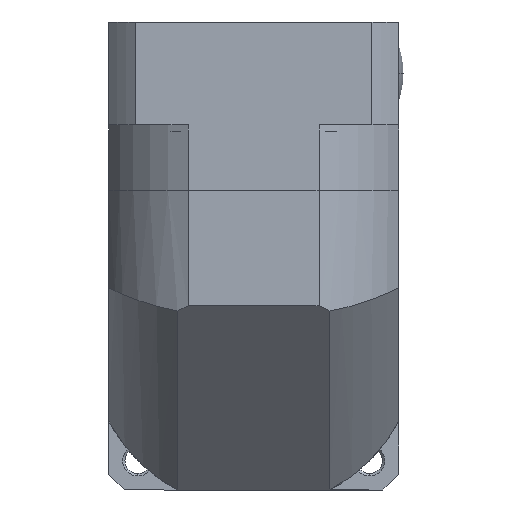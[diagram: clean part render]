
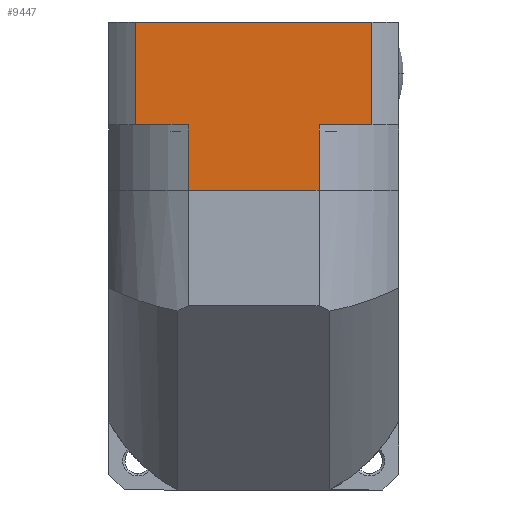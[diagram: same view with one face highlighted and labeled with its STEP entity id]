
A CAD part, front view. The second image highlights one B-rep face of the part: STEP entity #9447.
In plain terms, the highlighted planar face has unit normal (0, -1, 0).
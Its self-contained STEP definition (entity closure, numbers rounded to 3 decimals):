
#75 = CARTESIAN_POINT ( 'NONE',  ( 34.192, -30.594, 80.993 ) ) ;
#390 = LINE ( 'NONE', #7635, #2299 ) ;
#411 = ORIENTED_EDGE ( 'NONE', *, *, #11024, .F. ) ;
#428 = VECTOR ( 'NONE', #5160, 1000. ) ;
#904 = LINE ( 'NONE', #75, #428 ) ;
#1368 = CARTESIAN_POINT ( 'NONE',  ( -16.365, -30.594, 80.993 ) ) ;
#1486 = PLANE ( 'NONE',  #2912 ) ;
#1507 = CARTESIAN_POINT ( 'NONE',  ( -5.051, -30.594, 44.993 ) ) ;
#1837 = VECTOR ( 'NONE', #11076, 1000. ) ;
#2127 = LINE ( 'NONE', #6307, #10386 ) ;
#2299 = VECTOR ( 'NONE', #3519, 1000. ) ;
#2381 = VECTOR ( 'NONE', #8895, 1000. ) ;
#2719 = ORIENTED_EDGE ( 'NONE', *, *, #12917, .F. ) ;
#2748 = EDGE_LOOP ( 'NONE', ( #12069, #2719, #7131, #5301, #411, #4698, #13366, #6683 ) ) ;
#2836 = CARTESIAN_POINT ( 'NONE',  ( -16.365, -30.594, 80.993 ) ) ;
#2912 = AXIS2_PLACEMENT_3D ( 'NONE', #7628, #13137, #11045 ) ;
#2973 = VERTEX_POINT ( 'NONE', #2836 ) ;
#3122 = DIRECTION ( 'NONE',  ( 1., 0., 0. ) ) ;
#3194 = EDGE_CURVE ( 'NONE', #2973, #12304, #390, .T. ) ;
#3519 = DIRECTION ( 'NONE',  ( 0., 0., -1. ) ) ;
#3546 = VECTOR ( 'NONE', #3122, 1000. ) ;
#3586 = DIRECTION ( 'NONE',  ( 1., 0., 0. ) ) ;
#3672 = VERTEX_POINT ( 'NONE', #9069 ) ;
#3774 = VECTOR ( 'NONE', #4931, 1000. ) ;
#3889 = LINE ( 'NONE', #4733, #3774 ) ;
#4698 = ORIENTED_EDGE ( 'NONE', *, *, #3194, .T. ) ;
#4733 = CARTESIAN_POINT ( 'NONE',  ( 22.878, -30.594, 58.993 ) ) ;
#4931 = DIRECTION ( 'NONE',  ( 0., 0., -1. ) ) ;
#5160 = DIRECTION ( 'NONE',  ( 0., 0., -1. ) ) ;
#5301 = ORIENTED_EDGE ( 'NONE', *, *, #12654, .F. ) ;
#5471 = CARTESIAN_POINT ( 'NONE',  ( -16.365, -30.594, 58.993 ) ) ;
#5790 = EDGE_CURVE ( 'NONE', #3672, #7605, #7732, .T. ) ;
#6098 = VECTOR ( 'NONE', #10220, 1000. ) ;
#6307 = CARTESIAN_POINT ( 'NONE',  ( -16.365, -30.594, 58.993 ) ) ;
#6316 = EDGE_CURVE ( 'NONE', #7605, #8727, #8115, .T. ) ;
#6683 = ORIENTED_EDGE ( 'NONE', *, *, #5790, .T. ) ;
#6814 = CARTESIAN_POINT ( 'NONE',  ( -5.051, -30.594, 58.993 ) ) ;
#7101 = VERTEX_POINT ( 'NONE', #8341 ) ;
#7131 = ORIENTED_EDGE ( 'NONE', *, *, #12986, .T. ) ;
#7605 = VERTEX_POINT ( 'NONE', #11523 ) ;
#7628 = CARTESIAN_POINT ( 'NONE',  ( -5.051, -30.594, 58.993 ) ) ;
#7635 = CARTESIAN_POINT ( 'NONE',  ( -16.365, -30.594, 80.993 ) ) ;
#7732 = LINE ( 'NONE', #6814, #1837 ) ;
#8115 = LINE ( 'NONE', #1507, #6098 ) ;
#8341 = CARTESIAN_POINT ( 'NONE',  ( 34.192, -30.594, 58.993 ) ) ;
#8727 = VERTEX_POINT ( 'NONE', #11486 ) ;
#8803 = FACE_OUTER_BOUND ( 'NONE', #2748, .T. ) ;
#8895 = DIRECTION ( 'NONE',  ( 1., 0., 0. ) ) ;
#9069 = CARTESIAN_POINT ( 'NONE',  ( -5.051, -30.594, 58.993 ) ) ;
#9447 = ADVANCED_FACE ( 'NONE', ( #8803 ), #1486, .F. ) ;
#9525 = LINE ( 'NONE', #11700, #3546 ) ;
#10019 = LINE ( 'NONE', #1368, #2381 ) ;
#10220 = DIRECTION ( 'NONE',  ( 1., 0., 0. ) ) ;
#10386 = VECTOR ( 'NONE', #3586, 1000. ) ;
#10412 = EDGE_CURVE ( 'NONE', #12304, #3672, #2127, .T. ) ;
#10557 = VERTEX_POINT ( 'NONE', #13001 ) ;
#11024 = EDGE_CURVE ( 'NONE', #2973, #10557, #10019, .T. ) ;
#11045 = DIRECTION ( 'NONE',  ( 0., 0., 1. ) ) ;
#11076 = DIRECTION ( 'NONE',  ( 0., 0., -1. ) ) ;
#11486 = CARTESIAN_POINT ( 'NONE',  ( 22.878, -30.594, 44.993 ) ) ;
#11523 = CARTESIAN_POINT ( 'NONE',  ( -5.051, -30.594, 44.993 ) ) ;
#11700 = CARTESIAN_POINT ( 'NONE',  ( -16.365, -30.594, 58.993 ) ) ;
#12069 = ORIENTED_EDGE ( 'NONE', *, *, #6316, .T. ) ;
#12304 = VERTEX_POINT ( 'NONE', #5471 ) ;
#12654 = EDGE_CURVE ( 'NONE', #10557, #7101, #904, .T. ) ;
#12705 = VERTEX_POINT ( 'NONE', #12961 ) ;
#12917 = EDGE_CURVE ( 'NONE', #12705, #8727, #3889, .T. ) ;
#12961 = CARTESIAN_POINT ( 'NONE',  ( 22.878, -30.594, 58.993 ) ) ;
#12986 = EDGE_CURVE ( 'NONE', #12705, #7101, #9525, .T. ) ;
#13001 = CARTESIAN_POINT ( 'NONE',  ( 34.192, -30.594, 80.993 ) ) ;
#13137 = DIRECTION ( 'NONE',  ( 0., 1., 0. ) ) ;
#13366 = ORIENTED_EDGE ( 'NONE', *, *, #10412, .T. ) ;
